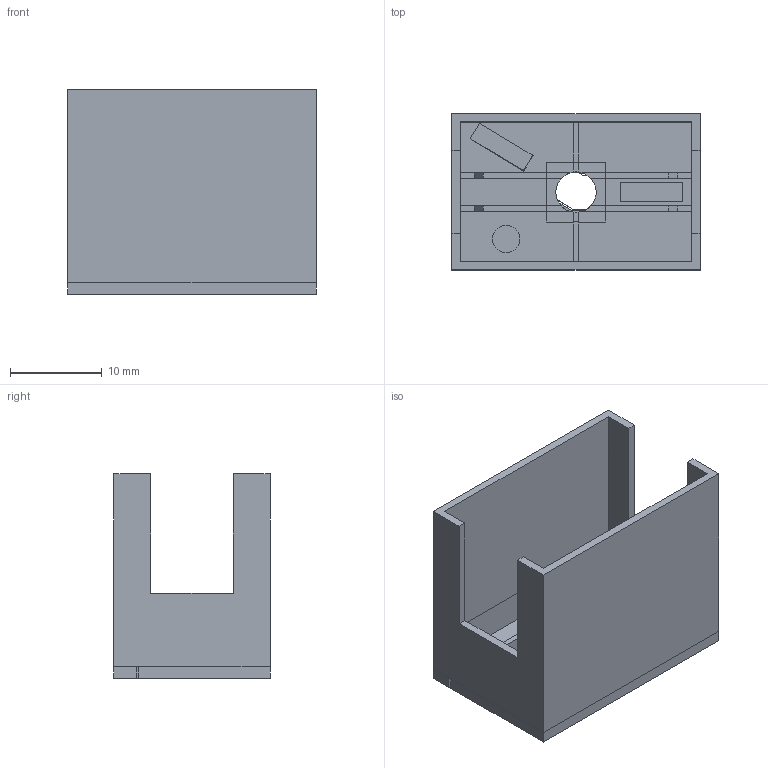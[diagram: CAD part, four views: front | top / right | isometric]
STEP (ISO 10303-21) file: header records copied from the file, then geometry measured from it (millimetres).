
FILE_DESCRIPTION(('FreeCAD Model'),'2;1');
FILE_NAME('Open CASCADE Shape Model','2024-03-19T21:12:06',(''),(''), 'Open CASCADE STEP processor 7.6','FreeCAD','Unknown');
FILE_SCHEMA(('AUTOMOTIVE_DESIGN { 1 0 10303 214 1 1 1 1 }'));
Length unit declared in the file: millimetre
Products named in the file (7): Kurve_Signal_links; Body; Fahrstrasse; Signal Einsatz; Füllung Signal, Fahrstraße; Füllung Fahrstraße abiegend; Füllung Fahrstraße gerade
Assembly tree (6 placements, depth 2):
  Kurve_Signal_links
    Body
    Fahrstrasse
    Signal Einsatz
    Füllung Signal, Fahrstraße
    Füllung Fahrstraße abiegend
    Füllung Fahrstraße gerade
Bounding box: 27 x 17 x 22.25 mm (x, y, z)
Volume: 2353.6 mm3; surface area: 4925.5 mm2
Topology: 6 solids, 6 shells, 175 faces, 441 edges, 277 vertices
Faces by surface type: plane 163, cylinder 12
Full cylindrical faces by diameter (mm): 3 x3, 4.4 x1
Entity records: 11091 total; most frequent: CARTESIAN_POINT 1878, DIRECTION 1711, LINE 1243, VECTOR 1243, ORIENTED_EDGE 882, PCURVE 882, DEFINITIONAL_REPRESENTATION 882, EDGE_CURVE 441
